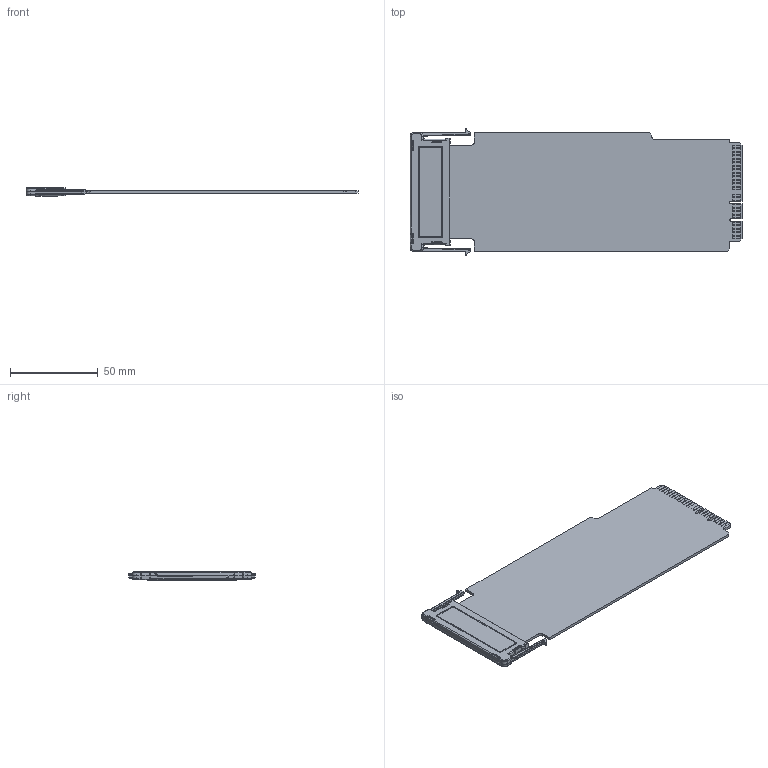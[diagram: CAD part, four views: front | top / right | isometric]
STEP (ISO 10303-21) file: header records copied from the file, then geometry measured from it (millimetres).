
FILE_DESCRIPTION((''),'2;1');
FILE_NAME('CU_NI-2806','2010-05-24T',('jjorden'),(''),'PRO/ENGINEER BY PARAMETRIC TECHNOLOGY CORPORATION, 2006080','PRO/ENGINEER BY PARAMETRIC TECHNOLOGY CORPORATION, 2006080','');
FILE_SCHEMA(('CONFIG_CONTROL_DESIGN'));
Length unit declared in the file: inch
Products named in the file (1): CU_NI-2806
Bounding box: 189.43 x 72.39 x 4.62 mm (x, y, z)
Volume: 22988 mm3; surface area: 31365.5 mm2
Topology: 2 solids, 2 shells, 1113 faces, 2718 edges, 1641 vertices
Faces by surface type: plane 538, cylinder 349, bspline 118, cone 40, torus 36, sphere 32
Entity records: 42594 total; most frequent: CARTESIAN_POINT 17742, ORIENTED_EDGE 5436, DIRECTION 4604, EDGE_CURVE 2718, VECTOR 1794, LINE 1794, VERTEX_POINT 1641, AXIS2_PLACEMENT_3D 1405
